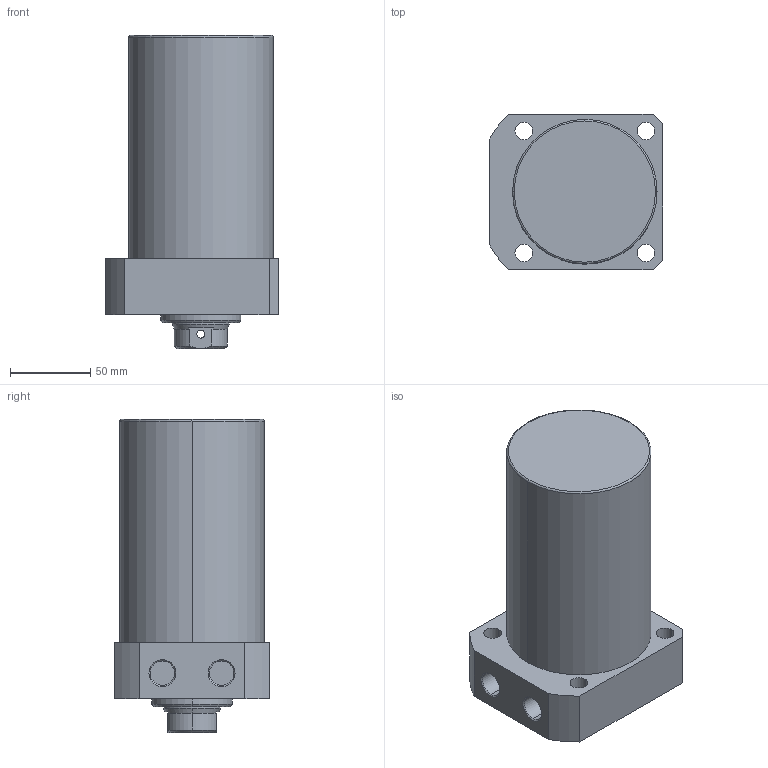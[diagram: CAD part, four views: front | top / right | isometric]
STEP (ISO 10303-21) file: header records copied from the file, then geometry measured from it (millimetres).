
FILE_DESCRIPTION (( 'STEP AP203' ), '1' );
FILE_NAME ('CLLR-090CB-095.STEP', '2019-12-18T06:13:55', ( '' ), ( '' ), 'SwSTEP 2.0', 'SolidWorks 2015', '' );
FILE_SCHEMA (( 'CONFIG_CONTROL_DESIGN' ));
Length unit declared in the file: millimetre
Products named in the file (1): CLLR-090CB-095
Bounding box: 108 x 97 x 195 mm (x, y, z)
Volume: 1232936.2 mm3; surface area: 84511.9 mm2
Topology: 1 solids, 1 shells, 69 faces, 163 edges, 102 vertices
Faces by surface type: cylinder 33, plane 19, cone 15, torus 2
Entity records: 2229 total; most frequent: CARTESIAN_POINT 497, DIRECTION 370, ORIENTED_EDGE 322, EDGE_CURVE 161, AXIS2_PLACEMENT_3D 151, VERTEX_POINT 102, EDGE_LOOP 89, CIRCLE 81
